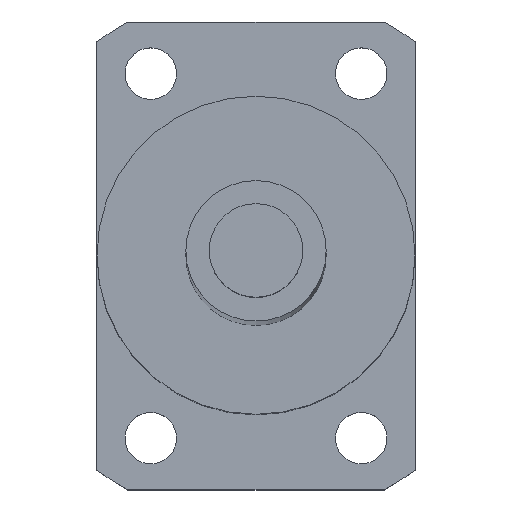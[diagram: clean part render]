
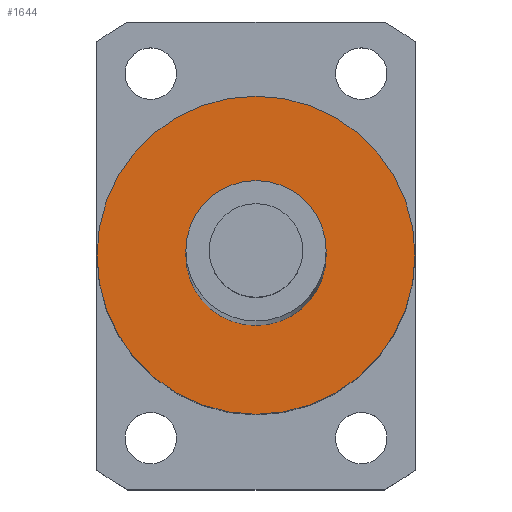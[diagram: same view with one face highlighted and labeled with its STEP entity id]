
A CAD part, top view. The second image highlights one B-rep face of the part: STEP entity #1644.
In plain terms, the highlighted planar face has unit normal (0, 0, 1).
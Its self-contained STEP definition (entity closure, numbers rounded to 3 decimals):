
#512=CARTESIAN_POINT('',(0.,0.,382.5));
#513=DIRECTION('',(0.,0.,1.));
#514=DIRECTION('',(1.,0.,0.));
#515=AXIS2_PLACEMENT_3D('',#512,#513,#514);
#517=CARTESIAN_POINT('',(0.,0.,382.5));
#518=DIRECTION('',(0.,0.,1.));
#519=DIRECTION('',(-1.,0.,0.));
#520=AXIS2_PLACEMENT_3D('',#517,#518,#519);
#522=CARTESIAN_POINT('',(0.,0.,382.5));
#523=DIRECTION('',(0.,0.,1.));
#524=DIRECTION('',(1.,0.,0.));
#525=AXIS2_PLACEMENT_3D('',#522,#523,#524);
#527=CARTESIAN_POINT('',(0.,0.,382.5));
#528=DIRECTION('',(0.,0.,1.));
#529=DIRECTION('',(-1.,0.,0.));
#530=AXIS2_PLACEMENT_3D('',#527,#528,#529);
#757=CARTESIAN_POINT('',(17.,0.,382.5));
#758=CARTESIAN_POINT('',(-17.,0.,382.5));
#759=VERTEX_POINT('',#757);
#760=VERTEX_POINT('',#758);
#769=CARTESIAN_POINT('',(7.5,0.,382.5));
#770=CARTESIAN_POINT('',(-7.5,0.,382.5));
#771=VERTEX_POINT('',#769);
#772=VERTEX_POINT('',#770);
#1629=CARTESIAN_POINT('',(0.,0.,382.5));
#1630=DIRECTION('',(0.,0.,1.));
#1631=DIRECTION('',(1.,0.,0.));
#1632=AXIS2_PLACEMENT_3D('',#1629,#1630,#1631);
#1633=PLANE('',#1632);
#1634=ORIENTED_EDGE('',*,*,#1609,.F.);
#1635=ORIENTED_EDGE('',*,*,#1623,.F.);
#1636=EDGE_LOOP('',(#1634,#1635));
#1637=FACE_OUTER_BOUND('',#1636,.F.);
#1639=ORIENTED_EDGE('',*,*,#1638,.T.);
#1641=ORIENTED_EDGE('',*,*,#1640,.T.);
#1642=EDGE_LOOP('',(#1639,#1641));
#1643=FACE_BOUND('',#1642,.F.);
#1644=ADVANCED_FACE('',(#1637,#1643),#1633,.T.);
#516=CIRCLE('',#515,17.);
#521=CIRCLE('',#520,17.);
#526=CIRCLE('',#525,7.5);
#531=CIRCLE('',#530,7.5);
#1609=EDGE_CURVE('',#759,#760,#516,.T.);
#1623=EDGE_CURVE('',#760,#759,#521,.T.);
#1638=EDGE_CURVE('',#771,#772,#526,.T.);
#1640=EDGE_CURVE('',#772,#771,#531,.T.);
